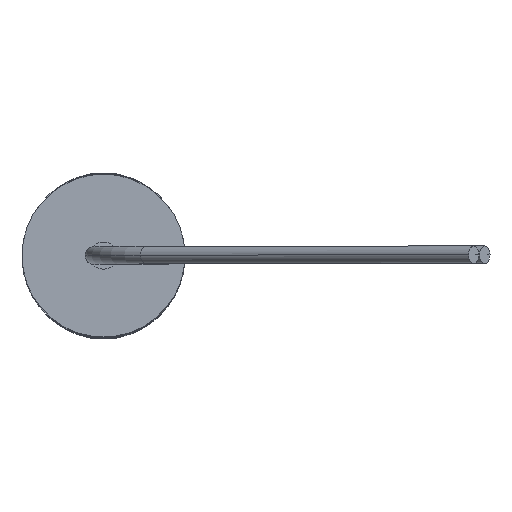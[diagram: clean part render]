
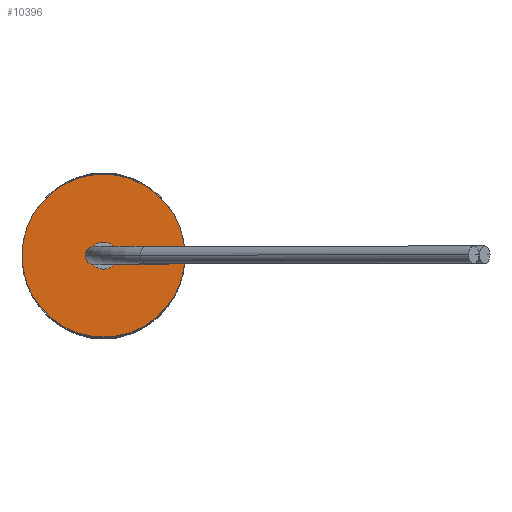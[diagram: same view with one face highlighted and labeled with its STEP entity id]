
A CAD part, top view. The second image highlights one B-rep face of the part: STEP entity #10396.
In plain terms, the highlighted planar face has unit normal (0, 0, 1).
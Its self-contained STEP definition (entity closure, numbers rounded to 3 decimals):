
#9967=CARTESIAN_POINT('Vertex',(1.35,0.,36.5)) ;
#9970=CARTESIAN_POINT('Axis2P3D Location',(0.7,0.,36.5)) ;
#9974=CARTESIAN_POINT('Vertex',(0.763,0.647,36.5)) ;
#10047=CARTESIAN_POINT('Vertex',(0.763,-0.647,36.5)) ;
#10050=CARTESIAN_POINT('Axis2P3D Location',(0.7,0.,36.5)) ;
#10164=CARTESIAN_POINT('Vertex',(-1.35,0.,36.5)) ;
#10199=CARTESIAN_POINT('Vertex',(-0.763,0.647,36.5)) ;
#10202=CARTESIAN_POINT('Axis2P3D Location',(-0.7,0.,36.5)) ;
#10254=CARTESIAN_POINT('Axis2P3D Location',(-0.7,0.,36.5)) ;
#10258=CARTESIAN_POINT('Vertex',(-0.763,-0.647,36.5)) ;
#10348=CARTESIAN_POINT('Axis2P3D Location',(0.,0.,36.5)) ;
#10360=CARTESIAN_POINT('Axis2P3D Location',(0.,0.,36.5)) ;
#10365=CARTESIAN_POINT('Axis2P3D Location',(0.,0.,36.5)) ;
#10369=CARTESIAN_POINT('Vertex',(6.,0.,36.5)) ;
#10371=CARTESIAN_POINT('Vertex',(-6.,0.,36.5)) ;
#10374=CARTESIAN_POINT('Axis2P3D Location',(0.,0.,36.5)) ;
#10383=CARTESIAN_POINT('Axis2P3D Location',(0.,0.,36.5)) ;
#9971=DIRECTION('Axis2P3D Direction',(0.,0.,1.)) ;
#10051=DIRECTION('Axis2P3D Direction',(0.,0.,1.)) ;
#10203=DIRECTION('Axis2P3D Direction',(0.,0.,1.)) ;
#10255=DIRECTION('Axis2P3D Direction',(0.,0.,1.)) ;
#10349=DIRECTION('Axis2P3D Direction',(0.,0.,1.)) ;
#10361=DIRECTION('Axis2P3D Direction',(0.,0.,1.)) ;
#10362=DIRECTION('Axis2P3D XDirection',(1.,0.,0.)) ;
#10366=DIRECTION('Axis2P3D Direction',(0.,0.,1.)) ;
#10375=DIRECTION('Axis2P3D Direction',(0.,0.,1.)) ;
#10384=DIRECTION('Axis2P3D Direction',(0.,0.,1.)) ;
#9972=AXIS2_PLACEMENT_3D('Circle Axis2P3D',#9970,#9971,$) ;
#10052=AXIS2_PLACEMENT_3D('Circle Axis2P3D',#10050,#10051,$) ;
#10204=AXIS2_PLACEMENT_3D('Circle Axis2P3D',#10202,#10203,$) ;
#10256=AXIS2_PLACEMENT_3D('Circle Axis2P3D',#10254,#10255,$) ;
#10350=AXIS2_PLACEMENT_3D('Circle Axis2P3D',#10348,#10349,$) ;
#10363=AXIS2_PLACEMENT_3D('Plane Axis2P3D',#10360,#10361,#10362) ;
#10367=AXIS2_PLACEMENT_3D('Circle Axis2P3D',#10365,#10366,$) ;
#10376=AXIS2_PLACEMENT_3D('Circle Axis2P3D',#10374,#10375,$) ;
#10385=AXIS2_PLACEMENT_3D('Circle Axis2P3D',#10383,#10384,$) ;
#10380=ORIENTED_EDGE('',*,*,#10373,.T.) ;
#10381=ORIENTED_EDGE('',*,*,#10378,.T.) ;
#10389=ORIENTED_EDGE('',*,*,#10387,.F.) ;
#10390=ORIENTED_EDGE('',*,*,#10260,.F.) ;
#10391=ORIENTED_EDGE('',*,*,#10206,.F.) ;
#10392=ORIENTED_EDGE('',*,*,#10352,.F.) ;
#10393=ORIENTED_EDGE('',*,*,#9976,.F.) ;
#10394=ORIENTED_EDGE('',*,*,#10054,.F.) ;
#10395=FACE_BOUND('',#10388,.T.) ;
#10396=ADVANCED_FACE('Body.2',(#10382,#10395),#10364,.T.) ;
#9973=CIRCLE('generated circle',#9972,0.65) ;
#10053=CIRCLE('generated circle',#10052,0.65) ;
#10205=CIRCLE('generated circle',#10204,0.65) ;
#10257=CIRCLE('generated circle',#10256,0.65) ;
#10351=CIRCLE('generated circle',#10350,1.) ;
#10368=CIRCLE('generated circle',#10367,6.) ;
#10377=CIRCLE('generated circle',#10376,6.) ;
#10386=CIRCLE('generated circle',#10385,1.) ;
#9976=EDGE_CURVE('',#9968,#9975,#9973,.T.) ;
#10054=EDGE_CURVE('',#10048,#9968,#10053,.T.) ;
#10206=EDGE_CURVE('',#10200,#10165,#10205,.T.) ;
#10260=EDGE_CURVE('',#10165,#10259,#10257,.T.) ;
#10352=EDGE_CURVE('',#9975,#10200,#10351,.T.) ;
#10373=EDGE_CURVE('',#10370,#10372,#10368,.T.) ;
#10378=EDGE_CURVE('',#10372,#10370,#10377,.T.) ;
#10387=EDGE_CURVE('',#10259,#10048,#10386,.T.) ;
#10379=EDGE_LOOP('',(#10380,#10381)) ;
#10388=EDGE_LOOP('',(#10389,#10390,#10391,#10392,#10393,#10394)) ;
#10382=FACE_OUTER_BOUND('',#10379,.T.) ;
#10364=PLANE('Plane',#10363) ;
#9968=VERTEX_POINT('',#9967) ;
#9975=VERTEX_POINT('',#9974) ;
#10048=VERTEX_POINT('',#10047) ;
#10165=VERTEX_POINT('',#10164) ;
#10200=VERTEX_POINT('',#10199) ;
#10259=VERTEX_POINT('',#10258) ;
#10370=VERTEX_POINT('',#10369) ;
#10372=VERTEX_POINT('',#10371) ;
